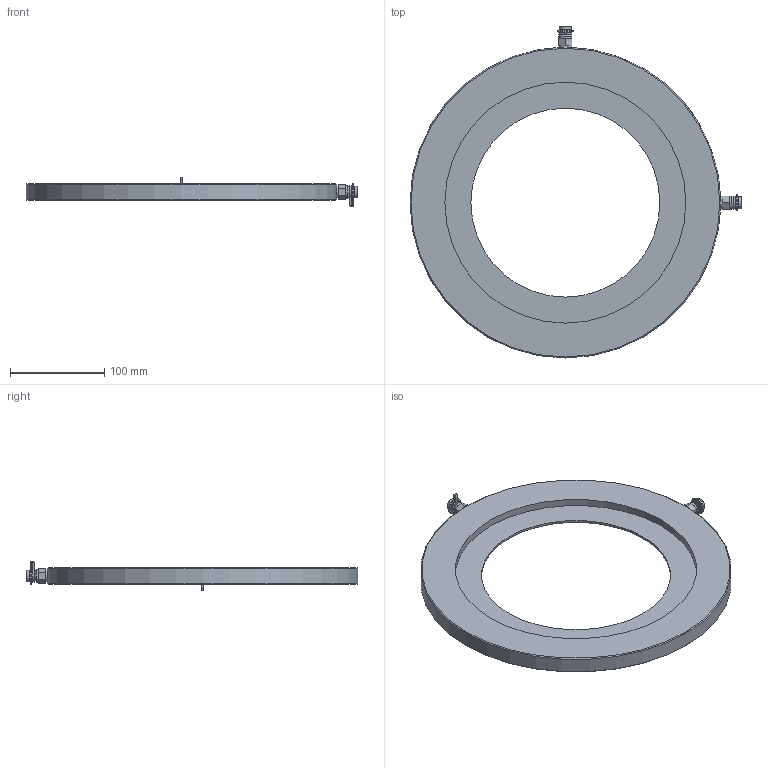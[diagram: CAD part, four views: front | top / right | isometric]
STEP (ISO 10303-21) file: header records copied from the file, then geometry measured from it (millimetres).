
FILE_DESCRIPTION((''),'2;1');
FILE_NAME('P:\Fastrack\53972_CRANE 3D\Workspace\DM900_DN250\DM900_DN250.stp','2010-12-23T13:56:23',('btaylor'),(''),'Autodesk Inventor 2008','Autodesk Inventor 2008','');
FILE_SCHEMA(('AUTOMOTIVE_DESIGN { 1 0 10303 214 1 1 1 1 }'));
Length unit declared in the file: millimetre
Products named in the file (1): DM900_DN250
Bounding box: 352.6 x 352.6 x 31.45 mm (x, y, z)
Volume: 664069.2 mm3; surface area: 143058.2 mm2
Topology: 1 solids, 1 shells, 103 faces, 231 edges, 149 vertices
Faces by surface type: plane 48, cylinder 29, bspline 18, cone 8
Full cylindrical faces by diameter (mm): 3.2 x2, 7.4 x2, 11 x2, 12.7 x2, 13.7 x2, 200.7 x1, 256 x2, 330 x1
Entity records: 7491 total; most frequent: CARTESIAN_POINT 5260, ORIENTED_EDGE 392, DIRECTION 390, EDGE_CURVE 196, EDGE_LOOP 152, AXIS2_PLACEMENT_3D 150, VERTEX_POINT 138, STYLED_ITEM 104
